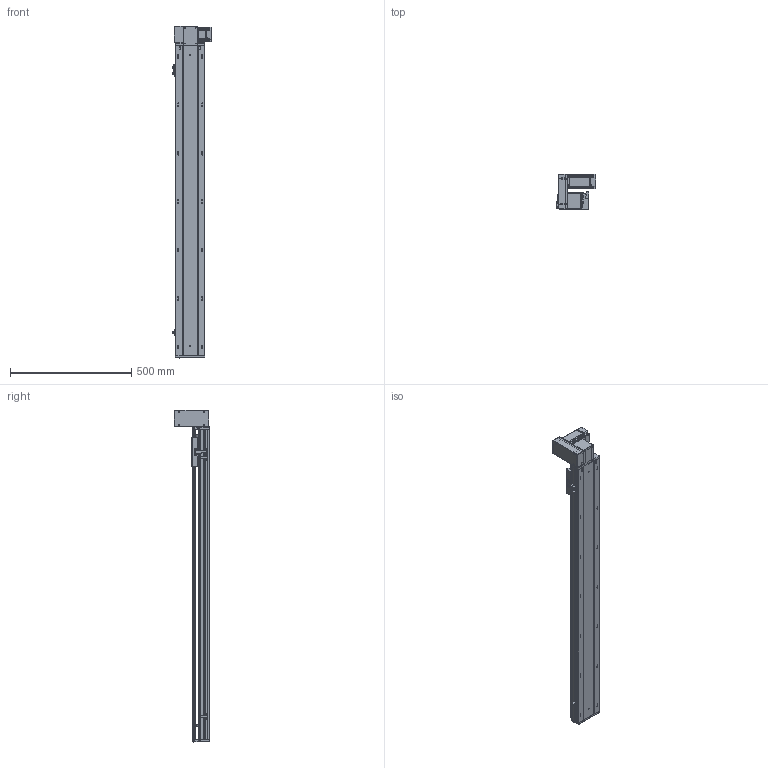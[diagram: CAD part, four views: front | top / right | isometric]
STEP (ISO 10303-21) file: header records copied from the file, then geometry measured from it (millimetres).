
FILE_DESCRIPTION (( 'STEP AP203' ), '1' );
FILE_NAME ('RY120-T-300-UL.SLDASM_1050.step', '2021-03-01T05:36:18', ( '盈信电脑' ), ( '东莞市道滘镇水果街19号' ), 'SwSTEP 2.0', 'SolidWorks 2012', '' );
FILE_SCHEMA (( 'CONFIG_CONTROL_DESIGN' ));
Products named in the file (18): 15; RY120-T翋肮祭謫裔啣; RY120-T蹟翐M4; RY120-T-300-UL.SLDASM_1050; RY120-T萇儂欶; 滅袉蝶18-10; RY120-T主同步轮轴承压盖; 侂狟400W侜督萇儂; RY120-T肮祭湍揤踡輸2; RY120-T萇儂假蚾啣; RY120-T翋肮祭盓傅釱; RY120綴裔啣; 覜茼ん672; RY120-T肮祭湍揤踡輸1; RY120外置感应片(140共用）; RY120-T-300-UL倰第奻裔啣_1050; RY120肮祭湍臏賑輸; RY120-T-300-UL倰第菁釱_1050
Assembly tree (23 placements, depth 3):
  RY120-T-300-UL.SLDASM_1050
    RY120-T-300-UL倰第菁釱_1050
    RY120-T-300-UL倰第奻裔啣_1050
    RY120肮祭湍臏賑輸
    RY120綴裔啣
    覜茼ん672  x3
    RY120外置感应片(140共用）
    RY120-T肮祭湍揤踡輸1
    RY120-T肮祭湍揤踡輸2
    RY120-T翋肮祭盓傅釱
    RY120-T萇儂假蚾啣
    侂狟400W侜督萇儂
      15
    RY120-T主同步轮轴承压盖
    滅袉蝶18-10  x2
    RY120-T萇儂欶
    RY120-T蹟翐M4  x4
    RY120-T翋肮祭謫裔啣
Bounding box: 164.2 x 146 x 1371 mm (x, y, z)
Volume: 3727245.8 mm3; surface area: 1393716.4 mm2
Topology: 23 solids, 23 shells, 2824 faces, 7692 edges, 4928 vertices
Faces by surface type: plane 1416, cylinder 1066, cone 253, bspline 89
Entity records: 89754 total; most frequent: CARTESIAN_POINT 22688, ORIENTED_EDGE 13800, DIRECTION 13090, EDGE_CURVE 6900, VERTEX_POINT 4515, AXIS2_PLACEMENT_3D 4385, VECTOR 4320, LINE 4320
